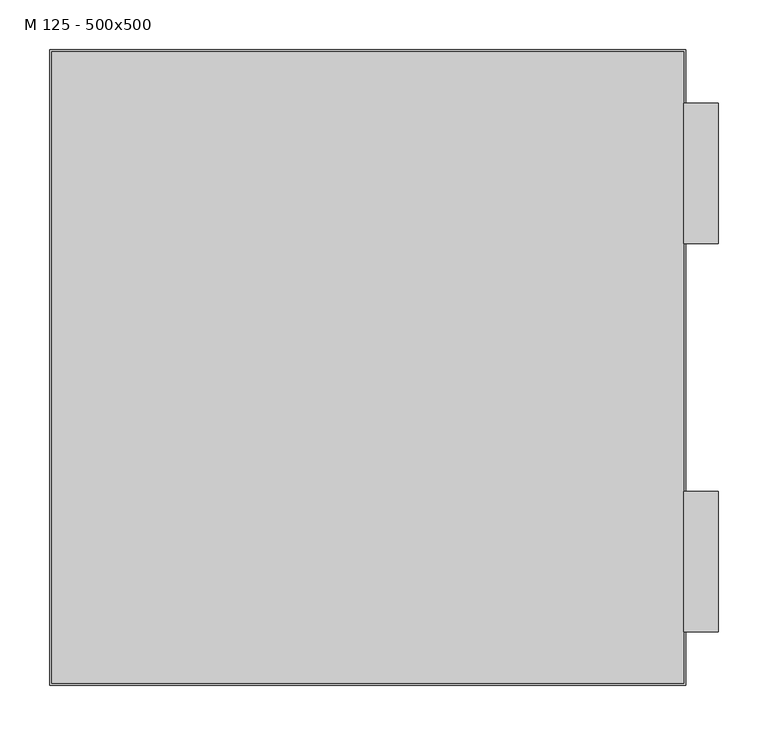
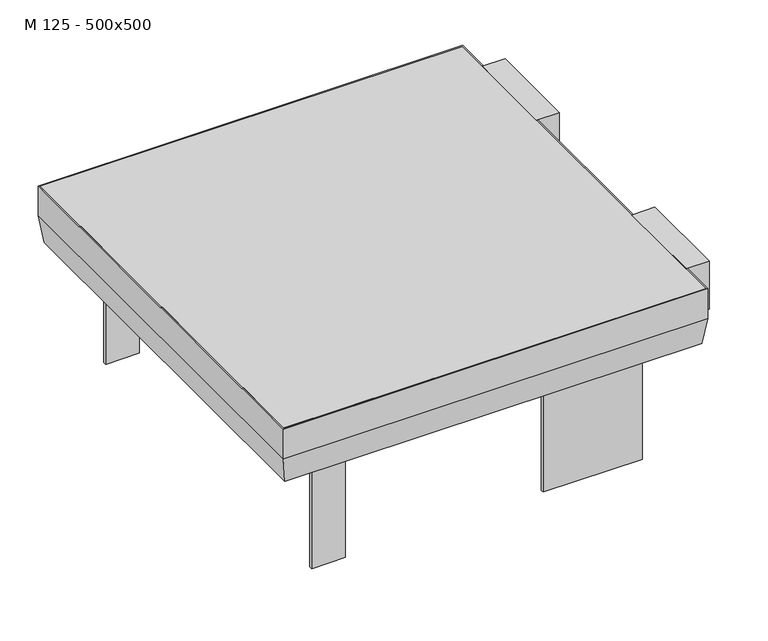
"""IFC4 building model written with IfcOpenShell, lengths in millimetres: proxy geometry, ME_ST_WPB_Access Cover UNIFACE ASSIST GS_ACO : M 125 - 500x500."""

from ifc_helpers import new_model, si_unit, frame, origin, place, context, project, spatial, polyline, outline, extrude, faceted_brep, source, transform, mapped, element, save


def m_125_500x500_6433a7a4(model_context):
    return source(origin(), model_context, "Body", "SolidModel", [
        extrude(outline(polyline([(319.0, -125.0), (354.0, -125.0), (354.0, -267.0), (319.0, -267.0), (319.0, -125.0)])), frame((0.0, 0.0, -76.5), z_axis=(0.0, 0.0, 1.0), x_axis=(1.0, 0.0, 0.0)), (0.0, 0.0, 1.0), 76.5),
        extrude(outline(polyline([(319.0, 267.0), (354.0, 267.0), (354.0, 125.0), (319.0, 125.0), (319.0, 267.0)])), frame((0.0, 0.0, -76.5), z_axis=(0.0, 0.0, 1.0), x_axis=(1.0, 0.0, 0.0)), (0.0, 0.0, 1.0), 76.5),
        extrude(outline(polyline([(318.9610723, 318.9610723), (318.9610723, -318.9610723), (-318.9610723, -318.9610723), (-318.9610723, 318.9610723), (318.9610723, 318.9610723)])), frame((0.0, 0.0, -5.0), z_axis=(0.0, 0.0, 1.0), x_axis=(1.0, 0.0, 0.0)), (0.0, 0.0, 1.0), 5.0),
        faceted_brep([(318.9610723, 318.9610723, 0.0), (318.9610723, 318.9610723, -47.1371315), (318.9610723, -318.9610723, -47.1371315), (318.9610723, -318.9610723, 0.0), (320.9610723, 320.9610723, -47.2769852), (320.9610723, 320.9610723, 0.0), (320.9610723, -320.9610723, 0.0), (320.9610723, -320.9610723, -47.2769852), (-318.9610723, -318.9610723, -47.1371315), (-318.9610723, -318.9610723, 0.0), (-320.9610723, -320.9610723, 0.0), (-320.9610723, -320.9610723, -47.2769852), (-318.9610723, 318.9610723, -47.1371315), (-318.9610723, 318.9610723, 0.0), (-320.9610723, 320.9610723, 0.0), (-320.9610723, 320.9610723, -47.2769852), (313.3587115, 313.3587115, -87.0), (313.3587115, -313.3587115, -87.0), (-313.3587115, -313.3587115, -87.0), (-313.3587115, 313.3587115, -87.0), (250.0, -250.0, -87.0), (-250.0, -250.0, -87.0), (-250.0, 250.0, -87.0), (250.0, 250.0, -87.0), (315.0972849, -315.0972849, -89.0), (-315.0972849, -315.0972849, -89.0), (-315.0972849, 315.0972849, -89.0), (315.0972849, 315.0972849, -89.0), (250.0, 250.0, -89.0), (-250.0, 250.0, -89.0), (-250.0, -250.0, -89.0), (250.0, -250.0, -89.0)], [[[0, 1, 2, 3]], [[4, 5, 6, 7]], [[3, 2, 8, 9]], [[7, 6, 10, 11]], [[9, 8, 12, 13]], [[11, 10, 14, 15]], [[13, 12, 1, 0]], [[5, 14, 10, 6], [3, 9, 13, 0]], [[15, 14, 5, 4]], [[1, 16, 17, 2]], [[2, 17, 18, 8]], [[8, 18, 19, 12]], [[16, 19, 18, 17], [20, 21, 22, 23]], [[12, 19, 16, 1]], [[24, 25, 26, 27], [28, 29, 30, 31]], [[23, 28, 31, 20]], [[20, 31, 30, 21]], [[21, 30, 29, 22]], [[22, 29, 28, 23]], [[27, 4, 7, 24]], [[24, 7, 11, 25]], [[25, 11, 15, 26]], [[26, 15, 4, 27]]]),
        faceted_brep([(-266.0, -266.0, -89.0), (-266.0, -266.0, -87.0), (-266.0, 266.0, -87.0), (-266.0, 266.0, -89.0), (-245.1690105, -245.1690105, -109.5), (-253.786417, -253.786417, -89.0), (-253.786417, 253.786417, -89.0), (-245.1690105, 245.1690105, -109.5), (-253.0, -253.0, -87.0), (-244.1724128, -244.1724128, -108.0), (-244.1724128, 244.1724128, -108.0), (-253.0, 253.0, -87.0), (266.0, 266.0, -87.0), (266.0, 266.0, -89.0), (253.786417, 253.786417, -89.0), (245.1690105, 245.1690105, -109.5), (244.1724128, 244.1724128, -108.0), (253.0, 253.0, -87.0), (266.0, -266.0, -87.0), (266.0, -266.0, -89.0), (253.786417, -253.786417, -89.0), (245.1690105, -245.1690105, -109.5), (244.1724128, -244.1724128, -108.0), (253.0, -253.0, -87.0)], [[[0, 1, 2, 3]], [[4, 5, 6, 7]], [[8, 9, 10, 11]], [[3, 2, 12, 13]], [[7, 6, 14, 15]], [[11, 10, 16, 17]], [[13, 12, 18, 19]], [[15, 14, 20, 21]], [[17, 16, 22, 23]], [[2, 1, 18, 12], [8, 11, 17, 23]], [[1, 0, 19, 18]], [[0, 3, 13, 19], [6, 5, 20, 14]], [[5, 4, 21, 20]], [[4, 7, 15, 21]], [[10, 9, 22, 16]], [[9, 8, 23, 22]]]),
        extrude(outline(polyline([(250.0, 272.0), (250.0, 267.0), (100.0, 267.0), (100.0, 272.0), (250.0, 272.0)])), frame((0.0, 0.0, -277.5), z_axis=(0.0, 0.0, 1.0), x_axis=(1.0, 0.0, 0.0)), (0.0, 0.0, 1.0), 188.5),
        extrude(outline(polyline([(250.0, -267.0), (250.0, -272.0), (100.0, -272.0), (100.0, -267.0), (250.0, -267.0)])), frame((0.0, 0.0, -277.5), z_axis=(0.0, 0.0, 1.0), x_axis=(1.0, 0.0, 0.0)), (0.0, 0.0, 1.0), 188.5),
        extrude(outline(polyline([(-199.0, 272.0), (-199.0, 267.0), (-250.0, 267.0), (-250.0, 272.0), (-199.0, 272.0)])), frame((0.0, 0.0, -277.5), z_axis=(0.0, 0.0, 1.0), x_axis=(1.0, 0.0, 0.0)), (0.0, 0.0, 1.0), 188.5),
        extrude(outline(polyline([(-199.0, -267.0), (-199.0, -272.0), (-250.0, -272.0), (-250.0, -267.0), (-199.0, -267.0)])), frame((0.0, 0.0, -277.5), z_axis=(0.0, 0.0, 1.0), x_axis=(1.0, 0.0, 0.0)), (0.0, 0.0, 1.0), 188.5),
    ])


if __name__ == "__main__":
    model = new_model("IFC4")
    model_context = context("Model", 3, world=origin())
    ifc_project = project(units=[si_unit("LENGTHUNIT", "METRE", prefix="MILLI")], contexts=[model_context])
    site = spatial("IfcSite", under=ifc_project)
    building = spatial("IfcBuilding", under=site)
    placement = place(None, origin())
    m_125_500x500_shape = m_125_500x500_6433a7a4(model_context)
    element("IfcBuildingElementProxy", 1, Name="ME_ST_WPB_Access Cover UNIFACE ASSIST GS_ACO : M 125 - 500x500", ObjectType="ME_ST_WPB_Access Cover UNIFACE ASSIST GS_ACO : M 125 - 500x500", at=placement, inside=building, context=model_context, shape_type="MappedRepresentation", body=[
        mapped(m_125_500x500_shape, transform((0.0, 0.0, 0.0), x_axis=(1.0, 0.0, 0.0), y_axis=(0.0, 1.0, 0.0), z_axis=(0.0, 0.0, 1.0))),
    ])
    save(model, "model.ifc")
